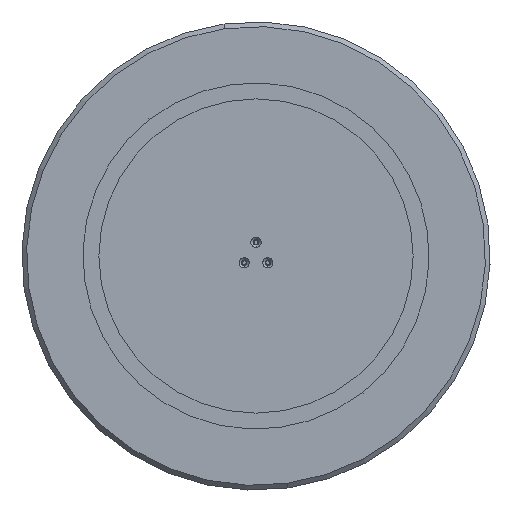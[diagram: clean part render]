
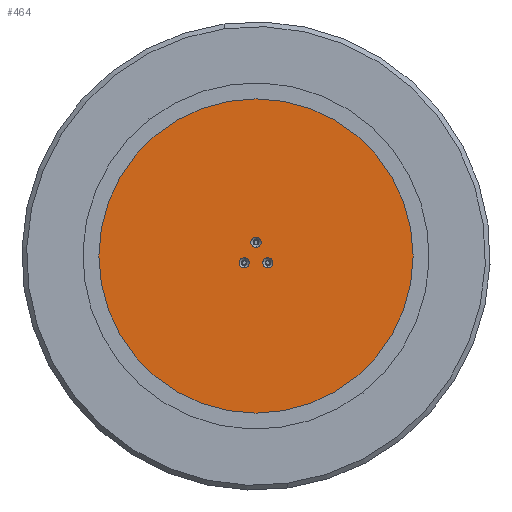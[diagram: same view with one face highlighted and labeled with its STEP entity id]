
A CAD part, front view. The second image highlights one B-rep face of the part: STEP entity #464.
In plain terms, the highlighted planar face has unit normal (0, -1, 0).
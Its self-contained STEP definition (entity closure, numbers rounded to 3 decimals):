
#129 = DIRECTION ( 'NONE',  ( 0., 0., -1. ) ) ;
#135 = VERTEX_POINT ( 'NONE', #4722 ) ;
#142 = DIRECTION ( 'NONE',  ( 0., 0., 1. ) ) ;
#279 = CIRCLE ( 'NONE', #466, 8.65 ) ;
#335 = ORIENTED_EDGE ( 'NONE', *, *, #3639, .F. ) ;
#405 = CARTESIAN_POINT ( 'NONE',  ( 20., 0., -11.547 ) ) ;
#458 = ORIENTED_EDGE ( 'NONE', *, *, #4758, .F. ) ;
#459 = AXIS2_PLACEMENT_3D ( 'NONE', #481, #2257, #129 ) ;
#464 = ADVANCED_FACE ( 'NONE', ( #1458, #1895, #4604, #3321 ), #3754, .F. ) ;
#466 = AXIS2_PLACEMENT_3D ( 'NONE', #405, #5293, #5262 ) ;
#481 = CARTESIAN_POINT ( 'NONE',  ( 0., 0., 23.094 ) ) ;
#543 = CARTESIAN_POINT ( 'NONE',  ( 0., 0., 265. ) ) ;
#607 = CARTESIAN_POINT ( 'NONE',  ( 0., 0., 0. ) ) ;
#660 = ORIENTED_EDGE ( 'NONE', *, *, #3841, .F. ) ;
#687 = EDGE_LOOP ( 'NONE', ( #4458, #2250 ) ) ;
#710 = EDGE_CURVE ( 'NONE', #135, #4918, #4680, .T. ) ;
#927 = CIRCLE ( 'NONE', #459, 8.65 ) ;
#965 = AXIS2_PLACEMENT_3D ( 'NONE', #2301, #4080, #3642 ) ;
#1039 = CIRCLE ( 'NONE', #1785, 8.65 ) ;
#1199 = DIRECTION ( 'NONE',  ( 0., 0., -1. ) ) ;
#1221 = CARTESIAN_POINT ( 'NONE',  ( 20., 0., -20.197 ) ) ;
#1274 = CARTESIAN_POINT ( 'NONE',  ( 0., 0., 0. ) ) ;
#1394 = CARTESIAN_POINT ( 'NONE',  ( 0., 0., -265. ) ) ;
#1450 = EDGE_LOOP ( 'NONE', ( #4651, #660 ) ) ;
#1458 = FACE_BOUND ( 'NONE', #687, .T. ) ;
#1785 = AXIS2_PLACEMENT_3D ( 'NONE', #4472, #2265, #1834 ) ;
#1807 = ORIENTED_EDGE ( 'NONE', *, *, #2100, .F. ) ;
#1834 = DIRECTION ( 'NONE',  ( 0., 0., -1. ) ) ;
#1895 = FACE_BOUND ( 'NONE', #1911, .T. ) ;
#1911 = EDGE_LOOP ( 'NONE', ( #335, #1807 ) ) ;
#1959 = CARTESIAN_POINT ( 'NONE',  ( -20., 0., -2.897 ) ) ;
#2096 = VERTEX_POINT ( 'NONE', #5329 ) ;
#2100 = EDGE_CURVE ( 'NONE', #2096, #4137, #4129, .T. ) ;
#2250 = ORIENTED_EDGE ( 'NONE', *, *, #4371, .F. ) ;
#2257 = DIRECTION ( 'NONE',  ( 0., -1., 0. ) ) ;
#2265 = DIRECTION ( 'NONE',  ( 0., -1., 0. ) ) ;
#2301 = CARTESIAN_POINT ( 'NONE',  ( 20., 0., -11.547 ) ) ;
#2435 = CARTESIAN_POINT ( 'NONE',  ( 0., 0., 14.444 ) ) ;
#2524 = AXIS2_PLACEMENT_3D ( 'NONE', #3230, #2828, #2800 ) ;
#2552 = DIRECTION ( 'NONE',  ( 0., 1., 0. ) ) ;
#2686 = ORIENTED_EDGE ( 'NONE', *, *, #3292, .F. ) ;
#2800 = DIRECTION ( 'NONE',  ( 0., 0., -1. ) ) ;
#2828 = DIRECTION ( 'NONE',  ( 0., -1., 0. ) ) ;
#2993 = VERTEX_POINT ( 'NONE', #3122 ) ;
#3042 = DIRECTION ( 'NONE',  ( 0., 1., 0. ) ) ;
#3122 = CARTESIAN_POINT ( 'NONE',  ( 0., 0., 31.744 ) ) ;
#3230 = CARTESIAN_POINT ( 'NONE',  ( 0., 0., 23.094 ) ) ;
#3292 = EDGE_CURVE ( 'NONE', #3733, #3823, #4880, .T. ) ;
#3321 = FACE_OUTER_BOUND ( 'NONE', #4660, .T. ) ;
#3447 = DIRECTION ( 'NONE',  ( 0., 0., 1. ) ) ;
#3639 = EDGE_CURVE ( 'NONE', #4137, #2096, #279, .T. ) ;
#3642 = DIRECTION ( 'NONE',  ( 0., 0., -1. ) ) ;
#3733 = VERTEX_POINT ( 'NONE', #1394 ) ;
#3754 = PLANE ( 'NONE',  #4171 ) ;
#3773 = EDGE_CURVE ( 'NONE', #4554, #2993, #5044, .T. ) ;
#3823 = VERTEX_POINT ( 'NONE', #543 ) ;
#3841 = EDGE_CURVE ( 'NONE', #4918, #135, #1039, .T. ) ;
#4080 = DIRECTION ( 'NONE',  ( 0., -1., 0. ) ) ;
#4129 = CIRCLE ( 'NONE', #965, 8.65 ) ;
#4137 = VERTEX_POINT ( 'NONE', #1221 ) ;
#4171 = AXIS2_PLACEMENT_3D ( 'NONE', #607, #4573, #142 ) ;
#4371 = EDGE_CURVE ( 'NONE', #2993, #4554, #927, .T. ) ;
#4403 = CARTESIAN_POINT ( 'NONE',  ( 0., 0., 0. ) ) ;
#4458 = ORIENTED_EDGE ( 'NONE', *, *, #3773, .F. ) ;
#4472 = CARTESIAN_POINT ( 'NONE',  ( -20., 0., -11.547 ) ) ;
#4554 = VERTEX_POINT ( 'NONE', #2435 ) ;
#4573 = DIRECTION ( 'NONE',  ( 0., 1., 0. ) ) ;
#4604 = FACE_BOUND ( 'NONE', #1450, .T. ) ;
#4651 = ORIENTED_EDGE ( 'NONE', *, *, #710, .F. ) ;
#4659 = CARTESIAN_POINT ( 'NONE',  ( -20., 0., -11.547 ) ) ;
#4660 = EDGE_LOOP ( 'NONE', ( #2686, #458 ) ) ;
#4680 = CIRCLE ( 'NONE', #5159, 8.65 ) ;
#4722 = CARTESIAN_POINT ( 'NONE',  ( -20., 0., -20.197 ) ) ;
#4758 = EDGE_CURVE ( 'NONE', #3823, #3733, #5772, .T. ) ;
#4880 = CIRCLE ( 'NONE', #5455, 265. ) ;
#4886 = DIRECTION ( 'NONE',  ( 0., 0., 1. ) ) ;
#4918 = VERTEX_POINT ( 'NONE', #1959 ) ;
#5044 = CIRCLE ( 'NONE', #2524, 8.65 ) ;
#5159 = AXIS2_PLACEMENT_3D ( 'NONE', #4659, #5704, #1199 ) ;
#5262 = DIRECTION ( 'NONE',  ( 0., 0., -1. ) ) ;
#5293 = DIRECTION ( 'NONE',  ( 0., -1., 0. ) ) ;
#5329 = CARTESIAN_POINT ( 'NONE',  ( 20., 0., -2.897 ) ) ;
#5398 = AXIS2_PLACEMENT_3D ( 'NONE', #4403, #2552, #3447 ) ;
#5455 = AXIS2_PLACEMENT_3D ( 'NONE', #1274, #3042, #4886 ) ;
#5704 = DIRECTION ( 'NONE',  ( 0., -1., 0. ) ) ;
#5772 = CIRCLE ( 'NONE', #5398, 265. ) ;
